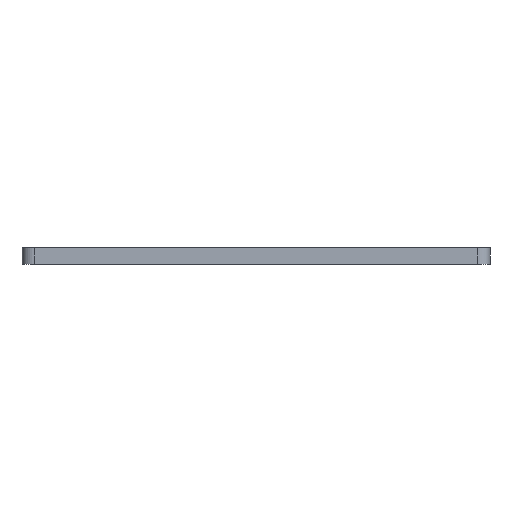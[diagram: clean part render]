
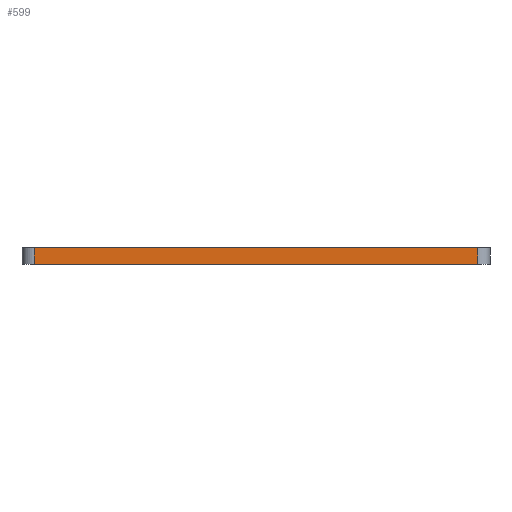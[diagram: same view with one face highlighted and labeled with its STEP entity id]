
A CAD part, left-side view. The second image highlights one B-rep face of the part: STEP entity #599.
In plain terms, the highlighted planar face has unit normal (-1, 0, 0).
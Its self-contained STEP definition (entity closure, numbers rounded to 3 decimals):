
#27 = EDGE_CURVE ( 'NONE', #447, #502, #299, .T. ) ;
#58 = CARTESIAN_POINT ( 'NONE',  ( 0., 55., 2. ) ) ;
#77 = LINE ( 'NONE', #345, #617 ) ;
#90 = CARTESIAN_POINT ( 'NONE',  ( 0., 55., 0. ) ) ;
#110 = DIRECTION ( 'NONE',  ( 0., 0., -1. ) ) ;
#122 = CARTESIAN_POINT ( 'NONE',  ( 0., 1.5, 0. ) ) ;
#132 = VERTEX_POINT ( 'NONE', #90 ) ;
#134 = DIRECTION ( 'NONE',  ( 1., 0., 0. ) ) ;
#183 = PLANE ( 'NONE',  #302 ) ;
#195 = EDGE_CURVE ( 'NONE', #132, #520, #203, .T. ) ;
#197 = ORIENTED_EDGE ( 'NONE', *, *, #420, .T. ) ;
#203 = LINE ( 'NONE', #706, #614 ) ;
#298 = ORIENTED_EDGE ( 'NONE', *, *, #608, .T. ) ;
#299 = LINE ( 'NONE', #369, #563 ) ;
#302 = AXIS2_PLACEMENT_3D ( 'NONE', #619, #134, #569 ) ;
#308 = DIRECTION ( 'NONE',  ( 0., -1., 0. ) ) ;
#311 = DIRECTION ( 'NONE',  ( 0., -1., 0. ) ) ;
#345 = CARTESIAN_POINT ( 'NONE',  ( 0., 1.5, 2. ) ) ;
#369 = CARTESIAN_POINT ( 'NONE',  ( 0., 0., 2. ) ) ;
#420 = EDGE_CURVE ( 'NONE', #447, #132, #497, .T. ) ;
#447 = VERTEX_POINT ( 'NONE', #58 ) ;
#497 = LINE ( 'NONE', #603, #588 ) ;
#502 = VERTEX_POINT ( 'NONE', #664 ) ;
#513 = DIRECTION ( 'NONE',  ( 0., 0., 1. ) ) ;
#520 = VERTEX_POINT ( 'NONE', #122 ) ;
#555 = EDGE_LOOP ( 'NONE', ( #683, #298, #705, #197 ) ) ;
#563 = VECTOR ( 'NONE', #311, 1000. ) ;
#569 = DIRECTION ( 'NONE',  ( 0., 1., 0. ) ) ;
#588 = VECTOR ( 'NONE', #110, 1000. ) ;
#599 = ADVANCED_FACE ( 'NONE', ( #626 ), #183, .F. ) ;
#603 = CARTESIAN_POINT ( 'NONE',  ( 0., 55., 2. ) ) ;
#608 = EDGE_CURVE ( 'NONE', #520, #502, #77, .T. ) ;
#614 = VECTOR ( 'NONE', #308, 1000. ) ;
#617 = VECTOR ( 'NONE', #513, 1000. ) ;
#619 = CARTESIAN_POINT ( 'NONE',  ( 0., 0., 2. ) ) ;
#626 = FACE_OUTER_BOUND ( 'NONE', #555, .T. ) ;
#664 = CARTESIAN_POINT ( 'NONE',  ( 0., 1.5, 2. ) ) ;
#683 = ORIENTED_EDGE ( 'NONE', *, *, #195, .T. ) ;
#705 = ORIENTED_EDGE ( 'NONE', *, *, #27, .F. ) ;
#706 = CARTESIAN_POINT ( 'NONE',  ( 0., 0., 0. ) ) ;
